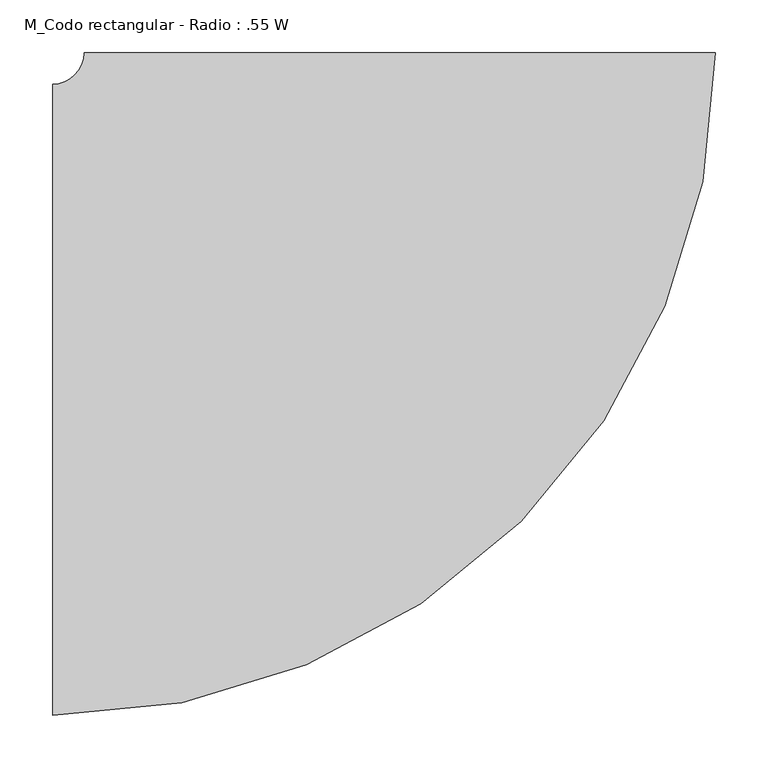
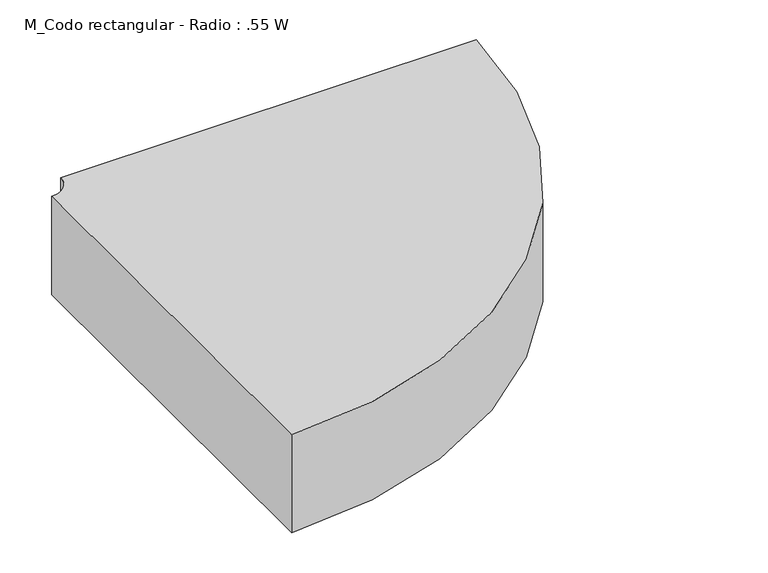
"""IFC4 building model written with IfcOpenShell, lengths in millimetres: duct fitting geometry, M_Codo rectangular - Radio : .55 W."""

from ifc_helpers import new_model, si_unit, point, frame, frame_2d, origin, place, context, project, spatial, polyline, circle_curve, trimmed, segment, composite_curve, outline, extrude, source, transform, mapped, element, save


def m_codo_rectangular_radio_55_w_da4b65d5(model_context):
    return source(origin(), model_context, "Body", "SweptSolid", [
        extrude(outline(composite_curve([segment(trimmed(circle_curve(frame_2d((-330.0, 330.0)), 630.0), [point((300.0, 330.0))], [point((-330.0, -300.0))], False, "CARTESIAN"), True, "CONTINUOUS"), segment(polyline([(-330.0, -300.0), (-330.0, 300.0)]), True, "CONTINUOUS"), segment(trimmed(circle_curve(frame_2d((-330.0, 330.0)), 30.0), [point((-330.0, 300.0))], [point((-300.0, 330.0))], True, "CARTESIAN"), True, "CONTINUOUS"), segment(polyline([(-300.0, 330.0), (300.0, 330.0)]), True, "CONTINUOUS")], self_intersect=False)), frame((0.0, 0.0, -75.0), z_axis=(0.0, 0.0, 1.0), x_axis=(1.0, 0.0, 0.0)), (0.0, 0.0, 1.0), 150.0),
    ])


if __name__ == "__main__":
    model = new_model("IFC4")
    model_context = context("Model", 3, world=origin())
    ifc_project = project(units=[si_unit("LENGTHUNIT", "METRE", prefix="MILLI")], contexts=[model_context])
    site = spatial("IfcSite", under=ifc_project)
    building = spatial("IfcBuilding", under=site)
    placement = place(None, origin())
    m_codo_rectangular_radio_55_w_shape = m_codo_rectangular_radio_55_w_da4b65d5(model_context)
    element("IfcDuctFitting", 1, ObjectType="M_Codo rectangular - Radio : .55 W", at=placement, inside=building, context=model_context, shape_type="MappedRepresentation", body=[
        mapped(m_codo_rectangular_radio_55_w_shape, transform((0.0, 0.0, 0.0), x_axis=(1.0, 0.0, 0.0), y_axis=(0.0, 1.0, 0.0), z_axis=(0.0, 0.0, 1.0))),
    ])
    save(model, "model.ifc")
